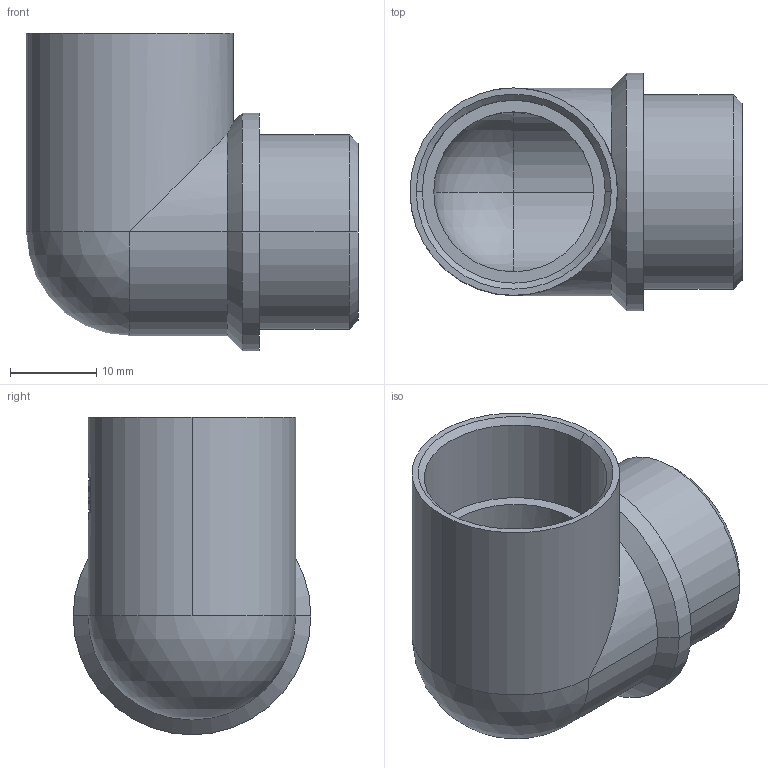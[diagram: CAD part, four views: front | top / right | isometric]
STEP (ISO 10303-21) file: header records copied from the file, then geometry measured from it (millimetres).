
FILE_DESCRIPTION (( 'STEP AP203' ), '1' );
FILE_NAME ('21.016 L.STEP', '2006-11-06T09:05:06', ( ' ' ), ( '' ), 'SwSTEP 2.0', 'SolidWorks 2005278', '' );
FILE_SCHEMA (( 'CONFIG_CONTROL_DESIGN' ));
Length unit declared in the file: millimetre
Products named in the file (1): 21.016 L
Bounding box: 38.4 x 27.5 x 36.75 mm (x, y, z)
Volume: 7616.1 mm3; surface area: 6965.8 mm2
Topology: 1 solids, 1 shells, 65 faces, 165 edges, 104 vertices
Faces by surface type: plane 38, cylinder 18, cone 6, sphere 3
Entity records: 2047 total; most frequent: CARTESIAN_POINT 422, DIRECTION 326, ORIENTED_EDGE 322, EDGE_CURVE 161, AXIS2_PLACEMENT_3D 125, VERTEX_POINT 103, VECTOR 76, LINE 76
